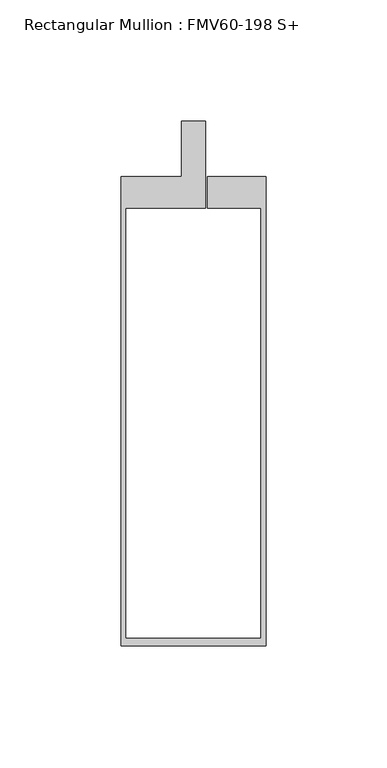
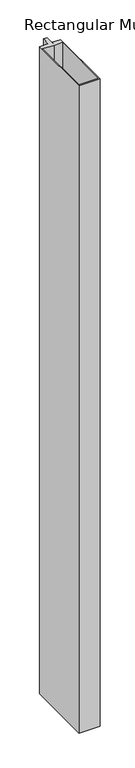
"""IFC4 building model written with IfcOpenShell, lengths in millimetres: member geometry, Rectangular Mullion : FMV60-198 S+."""

from ifc_helpers import new_model, si_unit, frame, origin, place, context, project, spatial, polyline, outline, extrude, source, transform, mapped, element, save


def rectangular_mullion_fmv60_198_s_67a3e9e7(model_context):
    return source(origin(), model_context, "Body", "SweptSolid", [
        extrude(outline(polyline([(-5.0, 0.1), (-5.0, 23.0768801), (5.0, 23.0768801), (5.0, -12.9034168), (-28.0157965, -12.9034168), (-28.0157965, -190.9078947), (27.9840779, -190.9078947), (27.9840779, -12.9034168), (5.8, -12.9034168), (5.8, 0.1), (29.9842035, 0.1), (29.9842035, -193.9078947), (-30.0157965, -193.9078947), (-30.0157965, 0.1), (-5.0, 0.1)])), frame((0.0, 0.0, -1940.0037392), z_axis=(0.0, 0.0, 1.0), x_axis=(1.0, 0.0, 0.0)), (0.0, 0.0, 1.0), 1940.0037392),
    ])


if __name__ == "__main__":
    model = new_model("IFC4")
    model_context = context("Model", 3, world=origin())
    ifc_project = project(units=[si_unit("LENGTHUNIT", "METRE", prefix="MILLI")], contexts=[model_context])
    site = spatial("IfcSite", under=ifc_project)
    building = spatial("IfcBuilding", under=site)
    placement = place(None, origin())
    rectangular_mullion_fmv60_198_s_shape = rectangular_mullion_fmv60_198_s_67a3e9e7(model_context)
    element("IfcMember", 1, ObjectType="Rectangular Mullion : FMV60-198 S+", at=placement, inside=building, context=model_context, shape_type="MappedRepresentation", body=[
        mapped(rectangular_mullion_fmv60_198_s_shape, transform((0.0, 0.0, 0.0), x_axis=(1.0, 0.0, 0.0), y_axis=(0.0, 1.0, 0.0), z_axis=(0.0, 0.0, 1.0))),
    ])
    save(model, "model.ifc")
